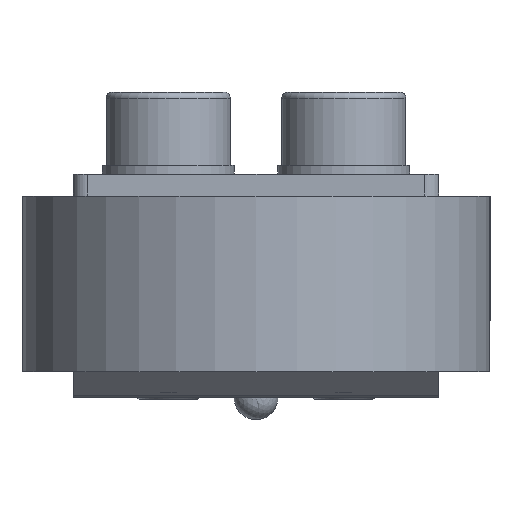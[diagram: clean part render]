
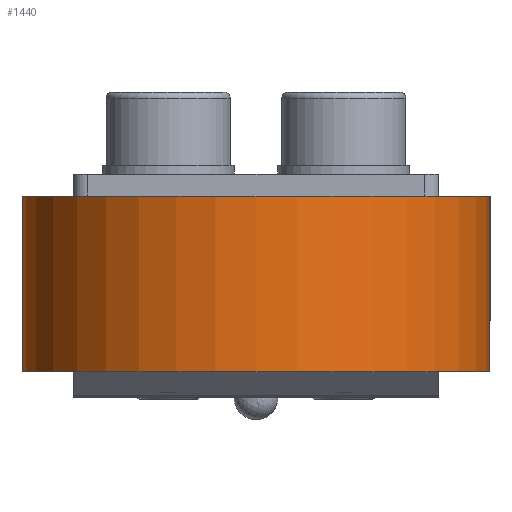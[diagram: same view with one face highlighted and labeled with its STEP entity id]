
A CAD part, left-side view. The second image highlights one B-rep face of the part: STEP entity #1440.
In plain terms, the highlighted cylindrical face has radius 16 mm (diameter 32 mm), a partial arc.
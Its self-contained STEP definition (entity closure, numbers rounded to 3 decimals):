
#87=LINE('',#2296,#207);
#93=LINE('',#2309,#213);
#207=VECTOR('',#1829,10.);
#213=VECTOR('',#1843,10.);
#351=CYLINDRICAL_SURFACE('',#1599,16.);
#430=FACE_OUTER_BOUND('',#523,.T.);
#523=EDGE_LOOP('',(#1117,#1118,#1119,#1120));
#615=CIRCLE('',#1569,16.);
#618=CIRCLE('',#1574,16.);
#692=VERTEX_POINT('',#2214);
#693=VERTEX_POINT('',#2215);
#699=VERTEX_POINT('',#2229);
#700=VERTEX_POINT('',#2231);
#831=EDGE_CURVE('',#692,#693,#615,.T.);
#838=EDGE_CURVE('',#700,#699,#618,.T.);
#871=EDGE_CURVE('',#699,#692,#87,.T.);
#878=EDGE_CURVE('',#693,#700,#93,.T.);
#1117=ORIENTED_EDGE('',*,*,#838,.T.);
#1118=ORIENTED_EDGE('',*,*,#871,.T.);
#1119=ORIENTED_EDGE('',*,*,#831,.T.);
#1120=ORIENTED_EDGE('',*,*,#878,.T.);
#1440=ADVANCED_FACE('',(#430),#351,.T.);
#1569=AXIS2_PLACEMENT_3D('',#2216,#1751,#1752);
#1574=AXIS2_PLACEMENT_3D('',#2232,#1765,#1766);
#1599=AXIS2_PLACEMENT_3D('',#2311,#1845,#1846);
#1751=DIRECTION('center_axis',(0.,0.,1.));
#1752=DIRECTION('ref_axis',(-0.707,-0.707,0.));
#1765=DIRECTION('center_axis',(0.,0.,-1.));
#1766=DIRECTION('ref_axis',(-0.707,0.707,0.));
#1829=DIRECTION('',(0.,0.,-1.));
#1843=DIRECTION('',(0.,0.,1.));
#1845=DIRECTION('center_axis',(0.,0.,1.));
#1846=DIRECTION('ref_axis',(-0.707,0.707,0.));
#2214=CARTESIAN_POINT('',(2.,16.,0.));
#2215=CARTESIAN_POINT('',(2.,-16.,0.));
#2216=CARTESIAN_POINT('Origin',(2.,0.,
0.));
#2229=CARTESIAN_POINT('',(2.,16.,12.));
#2231=CARTESIAN_POINT('',(2.,-16.,12.));
#2232=CARTESIAN_POINT('Origin',(2.,0.,12.));
#2296=CARTESIAN_POINT('',(2.,16.,0.));
#2309=CARTESIAN_POINT('',(2.,-16.,0.));
#2311=CARTESIAN_POINT('Origin',(2.,0.,0.));
